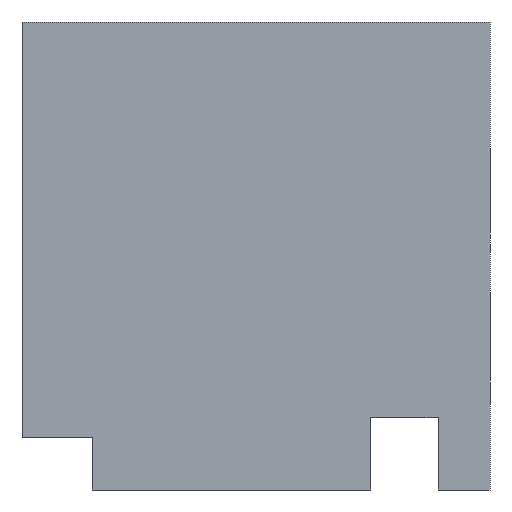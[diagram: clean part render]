
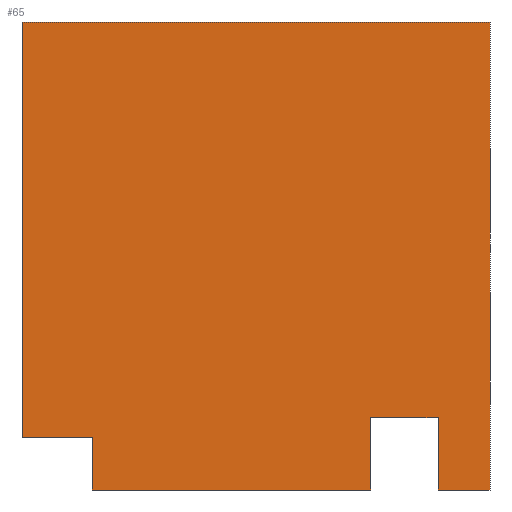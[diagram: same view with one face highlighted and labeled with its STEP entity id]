
A CAD part, left-side view. The second image highlights one B-rep face of the part: STEP entity #65.
In plain terms, the highlighted planar face has unit normal (-1, 0, 0).
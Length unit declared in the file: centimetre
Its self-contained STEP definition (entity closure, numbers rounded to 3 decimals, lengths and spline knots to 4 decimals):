
#1 = CARTESIAN_POINT ( 'NONE',  ( 0., 850.3973, 111.5054 ) ) ;
#4 = DIRECTION ( 'NONE',  ( 0., 0., 1. ) ) ;
#5 = EDGE_CURVE ( 'NONE', #1084, #1063, #372, .T. ) ;
#21 = ORIENTED_EDGE ( 'NONE', *, *, #5, .F. ) ;
#24 = EDGE_CURVE ( 'NONE', #842, #1056, #379, .T. ) ;
#34 = ORIENTED_EDGE ( 'NONE', *, *, #59, .T. ) ;
#50 = EDGE_CURVE ( 'NONE', #103, #1159, #736, .T. ) ;
#59 = EDGE_CURVE ( 'NONE', #842, #1159, #496, .T. ) ;
#65 = ADVANCED_FACE ( 'NONE', ( #951 ), #356, .F. ) ;
#80 = VECTOR ( 'NONE', #1044, 100. ) ;
#89 = CARTESIAN_POINT ( 'NONE',  ( 0., 0., 1000. ) ) ;
#103 = VERTEX_POINT ( 'NONE', #1215 ) ;
#107 = CARTESIAN_POINT ( 'NONE',  ( 0., 0., 1000. ) ) ;
#145 = CARTESIAN_POINT ( 'NONE',  ( 0., 850.3973, 111.5054 ) ) ;
#230 = VECTOR ( 'NONE', #606, 100. ) ;
#242 = LINE ( 'NONE', #917, #675 ) ;
#247 = CARTESIAN_POINT ( 'NONE',  ( 0., 110.9653, 0. ) ) ;
#269 = CARTESIAN_POINT ( 'NONE',  ( 0., 110.9653, 154.7305 ) ) ;
#343 = DIRECTION ( 'NONE',  ( 0., 1., 0. ) ) ;
#356 = PLANE ( 'NONE',  #1420 ) ;
#363 = VERTEX_POINT ( 'NONE', #787 ) ;
#372 = LINE ( 'NONE', #247, #1095 ) ;
#379 = LINE ( 'NONE', #145, #1115 ) ;
#452 = DIRECTION ( 'NONE',  ( 0., -1., 0. ) ) ;
#475 = LINE ( 'NONE', #1060, #1245 ) ;
#496 = LINE ( 'NONE', #743, #230 ) ;
#497 = ORIENTED_EDGE ( 'NONE', *, *, #24, .F. ) ;
#522 = DIRECTION ( 'NONE',  ( 0., -1., 0. ) ) ;
#539 = VERTEX_POINT ( 'NONE', #1308 ) ;
#556 = ORIENTED_EDGE ( 'NONE', *, *, #625, .F. ) ;
#564 = EDGE_LOOP ( 'NONE', ( #1228, #845, #497, #34, #1374, #744, #21, #1224, #556, #1230 ) ) ;
#584 = CARTESIAN_POINT ( 'NONE',  ( 0., 1000., 1000. ) ) ;
#606 = DIRECTION ( 'NONE',  ( 0., -1., 0. ) ) ;
#609 = EDGE_CURVE ( 'NONE', #1063, #103, #242, .T. ) ;
#618 = EDGE_CURVE ( 'NONE', #539, #1433, #801, .T. ) ;
#621 = DIRECTION ( 'NONE',  ( 0., 0., 1. ) ) ;
#625 = EDGE_CURVE ( 'NONE', #981, #363, #832, .T. ) ;
#652 = EDGE_CURVE ( 'NONE', #539, #981, #475, .T. ) ;
#664 = CARTESIAN_POINT ( 'NONE',  ( 0., 1000., 0. ) ) ;
#675 = VECTOR ( 'NONE', #343, 100. ) ;
#701 = CARTESIAN_POINT ( 'NONE',  ( 0., 1000., 111.5054 ) ) ;
#702 = VECTOR ( 'NONE', #1505, 100. ) ;
#729 = DIRECTION ( 'NONE',  ( 1., 0., 0. ) ) ;
#736 = LINE ( 'NONE', #1089, #900 ) ;
#743 = CARTESIAN_POINT ( 'NONE',  ( 0., 1000., 0. ) ) ;
#744 = ORIENTED_EDGE ( 'NONE', *, *, #609, .F. ) ;
#787 = CARTESIAN_POINT ( 'NONE',  ( 0., 0., 0. ) ) ;
#801 = LINE ( 'NONE', #584, #80 ) ;
#832 = LINE ( 'NONE', #107, #702 ) ;
#840 = EDGE_CURVE ( 'NONE', #1084, #363, #1133, .T. ) ;
#842 = VERTEX_POINT ( 'NONE', #1225 ) ;
#845 = ORIENTED_EDGE ( 'NONE', *, *, #1448, .F. ) ;
#865 = CARTESIAN_POINT ( 'NONE',  ( 0., 110.9653, 0. ) ) ;
#900 = VECTOR ( 'NONE', #975, 100. ) ;
#917 = CARTESIAN_POINT ( 'NONE',  ( 0., 110.9653, 154.7305 ) ) ;
#951 = FACE_OUTER_BOUND ( 'NONE', #564, .T. ) ;
#955 = DIRECTION ( 'NONE',  ( 0., 1., 0. ) ) ;
#975 = DIRECTION ( 'NONE',  ( 0., 0., -1. ) ) ;
#981 = VERTEX_POINT ( 'NONE', #89 ) ;
#1044 = DIRECTION ( 'NONE',  ( 0., 0., -1. ) ) ;
#1056 = VERTEX_POINT ( 'NONE', #1135 ) ;
#1057 = CARTESIAN_POINT ( 'NONE',  ( 0., 1000., 1000. ) ) ;
#1060 = CARTESIAN_POINT ( 'NONE',  ( 0., 1000., 1000. ) ) ;
#1061 = LINE ( 'NONE', #1, #1389 ) ;
#1063 = VERTEX_POINT ( 'NONE', #269 ) ;
#1084 = VERTEX_POINT ( 'NONE', #865 ) ;
#1089 = CARTESIAN_POINT ( 'NONE',  ( 0., 254.9575, 0. ) ) ;
#1095 = VECTOR ( 'NONE', #4, 100. ) ;
#1115 = VECTOR ( 'NONE', #621, 100. ) ;
#1133 = LINE ( 'NONE', #664, #1145 ) ;
#1135 = CARTESIAN_POINT ( 'NONE',  ( 0., 850.3973, 111.5054 ) ) ;
#1145 = VECTOR ( 'NONE', #522, 100. ) ;
#1155 = CARTESIAN_POINT ( 'NONE',  ( 0., 254.9575, 0. ) ) ;
#1159 = VERTEX_POINT ( 'NONE', #1155 ) ;
#1209 = DIRECTION ( 'NONE',  ( 0., 0., -1. ) ) ;
#1215 = CARTESIAN_POINT ( 'NONE',  ( 0., 254.9575, 154.7305 ) ) ;
#1224 = ORIENTED_EDGE ( 'NONE', *, *, #840, .T. ) ;
#1225 = CARTESIAN_POINT ( 'NONE',  ( 0., 850.3973, 0. ) ) ;
#1228 = ORIENTED_EDGE ( 'NONE', *, *, #618, .T. ) ;
#1230 = ORIENTED_EDGE ( 'NONE', *, *, #652, .F. ) ;
#1245 = VECTOR ( 'NONE', #452, 100. ) ;
#1308 = CARTESIAN_POINT ( 'NONE',  ( 0., 1000., 1000. ) ) ;
#1374 = ORIENTED_EDGE ( 'NONE', *, *, #50, .F. ) ;
#1389 = VECTOR ( 'NONE', #955, 100. ) ;
#1420 = AXIS2_PLACEMENT_3D ( 'NONE', #1057, #729, #1209 ) ;
#1433 = VERTEX_POINT ( 'NONE', #701 ) ;
#1448 = EDGE_CURVE ( 'NONE', #1056, #1433, #1061, .T. ) ;
#1505 = DIRECTION ( 'NONE',  ( 0., 0., -1. ) ) ;
